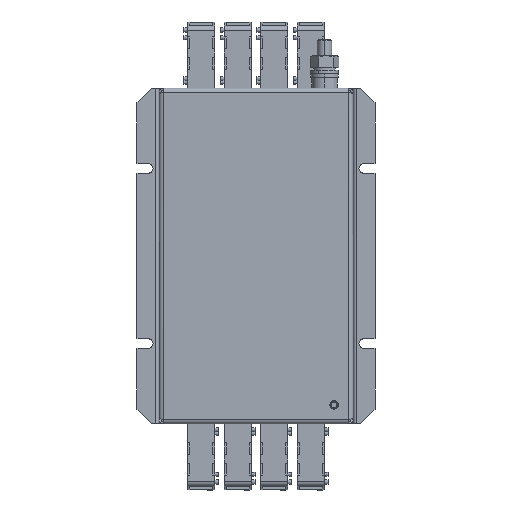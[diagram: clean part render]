
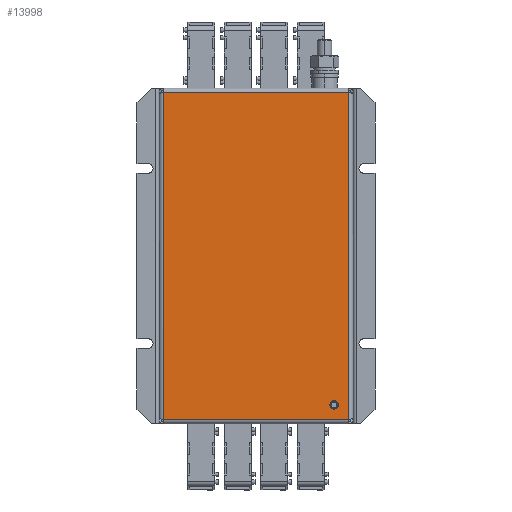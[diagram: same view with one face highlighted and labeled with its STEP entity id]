
A CAD part, left-side view. The second image highlights one B-rep face of the part: STEP entity #13998.
In plain terms, the highlighted planar face has unit normal (-1, 0, 0).
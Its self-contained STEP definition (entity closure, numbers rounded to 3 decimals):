
#2081 = AXIS2_PLACEMENT_3D ( 'NONE', #33615, #42569, #13561 ) ;
#2898 = DIRECTION ( 'NONE',  ( 1., 0., 0. ) ) ;
#3436 = DIRECTION ( 'NONE',  ( 0., 1., 0. ) ) ;
#3744 = LINE ( 'NONE', #6174, #5948 ) ;
#4968 = CARTESIAN_POINT ( 'NONE',  ( 0., -67.024, -134.665 ) ) ;
#5331 = VERTEX_POINT ( 'NONE', #8044 ) ;
#5620 = DIRECTION ( 'NONE',  ( 0., 0., 1. ) ) ;
#5948 = VECTOR ( 'NONE', #5620, 1000. ) ;
#6174 = CARTESIAN_POINT ( 'NONE',  ( 0., -67.024, -78.665 ) ) ;
#6440 = LINE ( 'NONE', #50938, #6841 ) ;
#6722 = FACE_BOUND ( 'NONE', #40645, .T. ) ;
#6841 = VECTOR ( 'NONE', #23002, 1000. ) ;
#7295 = ORIENTED_EDGE ( 'NONE', *, *, #17995, .T. ) ;
#7336 = EDGE_CURVE ( 'NONE', #42629, #5331, #3744, .T. ) ;
#8044 = CARTESIAN_POINT ( 'NONE',  ( 0., -67.024, 89.335 ) ) ;
#8151 = VECTOR ( 'NONE', #53664, 1000. ) ;
#11338 = FACE_OUTER_BOUND ( 'NONE', #35175, .T. ) ;
#11945 = DIRECTION ( 'NONE',  ( 0., -1., 0. ) ) ;
#13561 = DIRECTION ( 'NONE',  ( 0., 0., -1. ) ) ;
#13998 = ADVANCED_FACE ( 'NONE', ( #6722, #11338 ), #47694, .F. ) ;
#14238 = CARTESIAN_POINT ( 'NONE',  ( 0., -57.024, -124.665 ) ) ;
#14579 = ORIENTED_EDGE ( 'NONE', *, *, #21955, .T. ) ;
#15540 = ORIENTED_EDGE ( 'NONE', *, *, #7336, .T. ) ;
#15703 = LINE ( 'NONE', #32748, #8151 ) ;
#17422 = CIRCLE ( 'NONE', #51197, 2. ) ;
#17995 = EDGE_CURVE ( 'NONE', #38830, #42629, #52368, .T. ) ;
#20762 = VERTEX_POINT ( 'NONE', #37681 ) ;
#20812 = EDGE_CURVE ( 'NONE', #37750, #40129, #22248, .T. ) ;
#20840 = ORIENTED_EDGE ( 'NONE', *, *, #21286, .T. ) ;
#21286 = EDGE_CURVE ( 'NONE', #20762, #38830, #15703, .T. ) ;
#21955 = EDGE_CURVE ( 'NONE', #40129, #37750, #17422, .T. ) ;
#22248 = CIRCLE ( 'NONE', #2081, 2. ) ;
#23002 = DIRECTION ( 'NONE',  ( 0., 1., 0. ) ) ;
#24684 = ORIENTED_EDGE ( 'NONE', *, *, #20812, .T. ) ;
#30762 = DIRECTION ( 'NONE',  ( 1., 0., 0. ) ) ;
#30811 = AXIS2_PLACEMENT_3D ( 'NONE', #44695, #2898, #3436 ) ;
#31261 = CARTESIAN_POINT ( 'NONE',  ( 0., -57.024, -126.665 ) ) ;
#32016 = CARTESIAN_POINT ( 'NONE',  ( 0., -57.024, -122.665 ) ) ;
#32514 = CARTESIAN_POINT ( 'NONE',  ( 0., 29.726, -134.665 ) ) ;
#32748 = CARTESIAN_POINT ( 'NONE',  ( 0., 59.976, 33.335 ) ) ;
#33233 = EDGE_CURVE ( 'NONE', #5331, #20762, #6440, .T. ) ;
#33615 = CARTESIAN_POINT ( 'NONE',  ( 0., -57.024, -124.665 ) ) ;
#35175 = EDGE_LOOP ( 'NONE', ( #20840, #7295, #15540, #41195 ) ) ;
#37681 = CARTESIAN_POINT ( 'NONE',  ( 0., 59.976, 89.335 ) ) ;
#37750 = VERTEX_POINT ( 'NONE', #32016 ) ;
#38830 = VERTEX_POINT ( 'NONE', #50312 ) ;
#40129 = VERTEX_POINT ( 'NONE', #31261 ) ;
#40645 = EDGE_LOOP ( 'NONE', ( #14579, #24684 ) ) ;
#41195 = ORIENTED_EDGE ( 'NONE', *, *, #33233, .T. ) ;
#42569 = DIRECTION ( 'NONE',  ( 1., 0., 0. ) ) ;
#42629 = VERTEX_POINT ( 'NONE', #4968 ) ;
#44695 = CARTESIAN_POINT ( 'NONE',  ( 0., -3.524, -22.665 ) ) ;
#45349 = VECTOR ( 'NONE', #11945, 1000. ) ;
#47328 = DIRECTION ( 'NONE',  ( 0., 0., -1. ) ) ;
#47694 = PLANE ( 'NONE',  #30811 ) ;
#50312 = CARTESIAN_POINT ( 'NONE',  ( 0., 59.976, -134.665 ) ) ;
#50938 = CARTESIAN_POINT ( 'NONE',  ( 0., -36.774, 89.335 ) ) ;
#51197 = AXIS2_PLACEMENT_3D ( 'NONE', #14238, #30762, #47328 ) ;
#52368 = LINE ( 'NONE', #32514, #45349 ) ;
#53664 = DIRECTION ( 'NONE',  ( 0., 0., -1. ) ) ;
